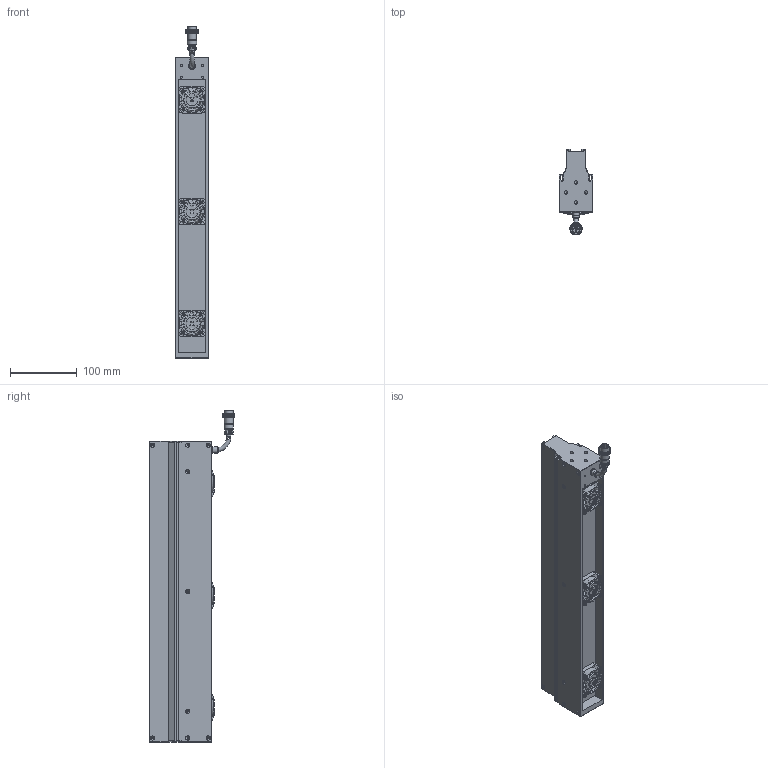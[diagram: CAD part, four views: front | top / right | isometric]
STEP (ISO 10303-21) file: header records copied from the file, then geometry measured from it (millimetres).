
FILE_DESCRIPTION (( 'STEP AP203' ), '1' );
FILE_NAME ('OPT-LSS452-R-V3.1尨砩芞.STEP', '2025-01-21T02:47:06', ( 'USER' ), ( '' ), 'SwSTEP 2.0', 'SolidWorks 2016', '' );
FILE_SCHEMA (( 'CONFIG_CONTROL_DESIGN' ));
Products named in the file (2): OPT-LSS452-R-V3.1尨砩芞
Bounding box: 50 x 128.85 x 498.78 mm (x, y, z)
Volume: 1499359.1 mm3; surface area: 226914.1 mm2
Topology: 17 solids, 25 shells, 3927 faces, 8699 edges, 4904 vertices
Faces by surface type: bspline 2140, cylinder 828, plane 733, torus 173, cone 53
Full cylindrical faces by diameter (mm): 0.95 x6, 1.1 x2, 1.4 x2, 1.6 x12, 2 x7, 2.5 x18, 3.2 x16, 3.4 x18, 3.5 x4, 5 x8, 6.2 x12, 6.4 x3, 7.5 x1, 8.6 x1, 9.3 x1, 9.8 x1, 10 x1, 13.2 x1, 14 x1, 16.1 x1, 24.8 x3, 38 x3
Entity records: 131972 total; most frequent: CARTESIAN_POINT 65653, ORIENTED_EDGE 16756, EDGE_CURVE 8378, DIRECTION 7082, B_SPLINE_CURVE_WITH_KNOTS 5729, VERTEX_POINT 4832, EDGE_LOOP 4288, FACE_OUTER_BOUND 4111
